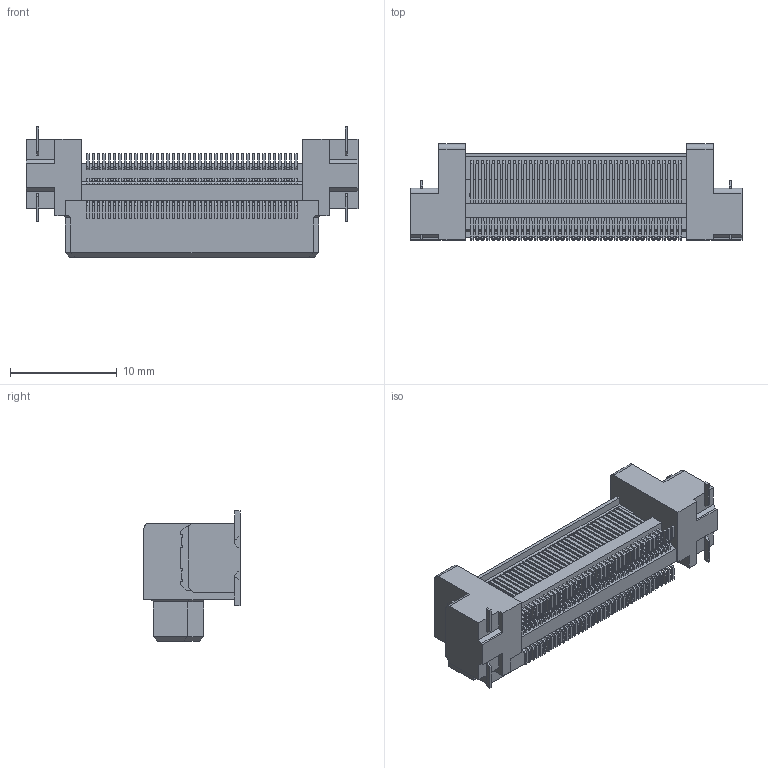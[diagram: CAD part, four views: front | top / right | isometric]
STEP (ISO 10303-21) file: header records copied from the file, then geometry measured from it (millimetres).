
FILE_DESCRIPTION(('Creo Elements/Direct Modeling STEP Export'),'2;1');
FILE_NAME('DT10-080L.stp','2018-11-12T16:52:50',(''),(''),'Creo Elements/Direct Modeling STEP processor for AP214 (Solid Model)','Creo Elements/Direct Modeling 19.0F 14-Feb-2017 (C) Parametric Technology GmbH','');
FILE_SCHEMA(('AUTOMOTIVE_DESIGN { 1 0 10303 214 1 1 1 1 }'));
Products named in the file (2): DT10-080L_model
Assembly tree (1 placements, depth 2):
  DT10-080L_model
    DT10-080L_model
Bounding box: 31.12 x 9 x 12.2 mm (x, y, z)
Volume: 1313.3 mm3; surface area: 1936.7 mm2
Topology: 1 solids, 1 shells, 4020 faces, 11296 edges, 7360 vertices
Faces by surface type: plane 3368, cylinder 652
Entity records: 124137 total; most frequent: ORIENTED_EDGE 22592, CARTESIAN_POINT 21747, DIRECTION 19301, EDGE_CURVE 11296, VECTOR 9473, LINE 9473, VERTEX_POINT 7360, AXIS2_PLACEMENT_3D 4914
